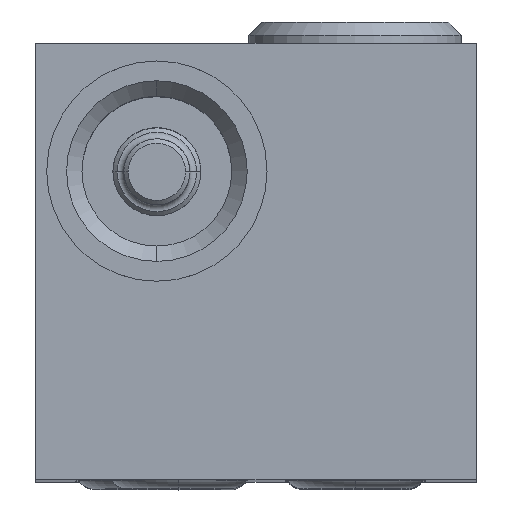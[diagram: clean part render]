
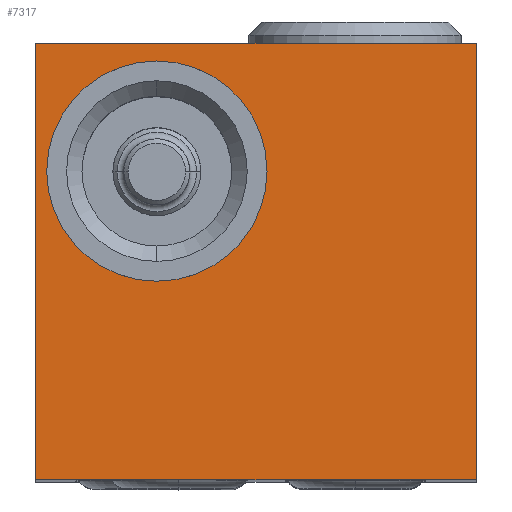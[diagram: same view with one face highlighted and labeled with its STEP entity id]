
A CAD part, top view. The second image highlights one B-rep face of the part: STEP entity #7317.
In plain terms, the highlighted planar face has unit normal (0, 0, 1).
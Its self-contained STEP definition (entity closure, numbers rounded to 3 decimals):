
#203=DIRECTION('',(0.,1.,0.));
#204=VECTOR('',#203,19.8);
#205=CARTESIAN_POINT('',(10.,-9.9,34.));
#206=LINE('',#205,#204);
#207=DIRECTION('',(1.,0.,0.));
#208=VECTOR('',#207,20.);
#209=CARTESIAN_POINT('',(-10.,-9.9,34.));
#210=LINE('',#209,#208);
#211=DIRECTION('',(0.,-1.,0.));
#212=VECTOR('',#211,19.8);
#213=CARTESIAN_POINT('',(-10.,9.9,34.));
#214=LINE('',#213,#212);
#215=DIRECTION('',(-1.,0.,0.));
#216=VECTOR('',#215,20.);
#217=CARTESIAN_POINT('',(10.,9.9,34.));
#218=LINE('',#217,#216);
#219=CARTESIAN_POINT('',(-4.5,4.1,34.));
#220=DIRECTION('',(0.,0.,-1.));
#221=DIRECTION('',(0.,-1.,0.));
#222=AXIS2_PLACEMENT_3D('',#219,#220,#221);
#224=CARTESIAN_POINT('',(-4.5,4.1,34.));
#225=DIRECTION('',(0.,0.,-1.));
#226=DIRECTION('',(0.,1.,0.));
#227=AXIS2_PLACEMENT_3D('',#224,#225,#226);
#6212=CARTESIAN_POINT('',(10.,-9.9,34.));
#6213=CARTESIAN_POINT('',(10.,9.9,34.));
#6214=VERTEX_POINT('',#6212);
#6215=VERTEX_POINT('',#6213);
#6216=CARTESIAN_POINT('',(-10.,9.9,34.));
#6217=VERTEX_POINT('',#6216);
#6218=CARTESIAN_POINT('',(-10.,-9.9,34.));
#6219=VERTEX_POINT('',#6218);
#6491=CARTESIAN_POINT('',(-4.5,-0.9,34.));
#6492=CARTESIAN_POINT('',(-4.5,9.1,34.));
#6493=VERTEX_POINT('',#6491);
#6494=VERTEX_POINT('',#6492);
#7300=CARTESIAN_POINT('',(0.,0.,34.));
#7301=DIRECTION('',(0.,0.,1.));
#7302=DIRECTION('',(1.,0.,0.));
#7303=AXIS2_PLACEMENT_3D('',#7300,#7301,#7302);
#7304=PLANE('',#7303);
#7305=ORIENTED_EDGE('',*,*,#7156,.F.);
#7306=ORIENTED_EDGE('',*,*,#7171,.F.);
#7307=ORIENTED_EDGE('',*,*,#7251,.F.);
#7308=ORIENTED_EDGE('',*,*,#7264,.F.);
#7309=EDGE_LOOP('',(#7305,#7306,#7307,#7308));
#7310=FACE_OUTER_BOUND('',#7309,.F.);
#7312=ORIENTED_EDGE('',*,*,#7311,.F.);
#7314=ORIENTED_EDGE('',*,*,#7313,.F.);
#7315=EDGE_LOOP('',(#7312,#7314));
#7316=FACE_BOUND('',#7315,.F.);
#7317=ADVANCED_FACE('',(#7310,#7316),#7304,.T.);
#223=CIRCLE('',#222,5.);
#228=CIRCLE('',#227,5.);
#7156=EDGE_CURVE('',#6214,#6215,#206,.T.);
#7171=EDGE_CURVE('',#6219,#6214,#210,.T.);
#7251=EDGE_CURVE('',#6217,#6219,#214,.T.);
#7264=EDGE_CURVE('',#6215,#6217,#218,.T.);
#7311=EDGE_CURVE('',#6493,#6494,#223,.T.);
#7313=EDGE_CURVE('',#6494,#6493,#228,.T.);
